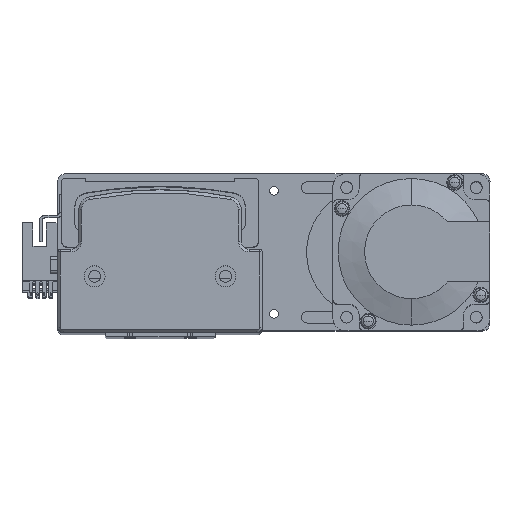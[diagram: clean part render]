
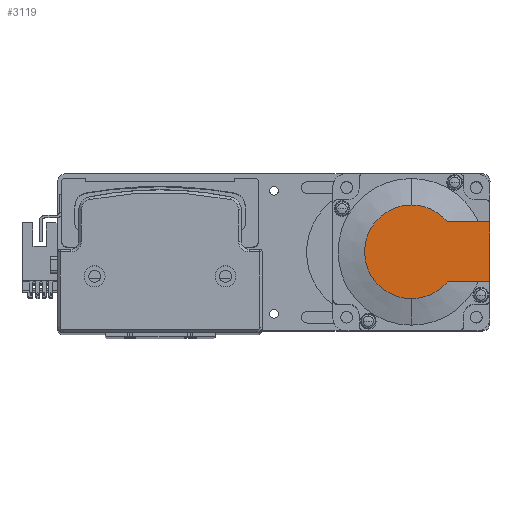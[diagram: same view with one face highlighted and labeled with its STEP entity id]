
A CAD part, top view. The second image highlights one B-rep face of the part: STEP entity #3119.
In plain terms, the highlighted planar face has unit normal (0, 0, 1) as drawn and (-1, 0, 0) by its records, which use the part's own axes.
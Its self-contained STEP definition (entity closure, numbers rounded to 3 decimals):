
#2785 = CARTESIAN_POINT ( 'NONE',  ( -118.5, -8.941, -11.45 ) ) ;
#3119 = ADVANCED_FACE ( 'NONE', ( #36825 ), #14721, .T. ) ;
#3309 = CIRCLE ( 'NONE', #39670, 17.881 ) ;
#4145 = DIRECTION ( 'NONE',  ( -1., 0., 0. ) ) ;
#5032 = EDGE_CURVE ( 'NONE', #11954, #33643, #34872, .T. ) ;
#5111 = EDGE_CURVE ( 'NONE', #33643, #24076, #5687, .T. ) ;
#5128 = VECTOR ( 'NONE', #20063, 1000. ) ;
#5179 = EDGE_CURVE ( 'NONE', #9548, #19487, #3309, .T. ) ;
#5242 = EDGE_CURVE ( 'NONE', #11954, #9548, #22089, .T. ) ;
#5687 = LINE ( 'NONE', #35577, #44061 ) ;
#6835 = VERTEX_POINT ( 'NONE', #16547 ) ;
#7410 = EDGE_CURVE ( 'NONE', #19487, #6835, #17312, .T. ) ;
#8348 = CARTESIAN_POINT ( 'NONE',  ( -118.5, 13.735, -11.45 ) ) ;
#8647 = EDGE_CURVE ( 'NONE', #6835, #24076, #48230, .T. ) ;
#9548 = VERTEX_POINT ( 'NONE', #8348 ) ;
#9695 = CARTESIAN_POINT ( 'NONE',  ( -118.5, 0., 0. ) ) ;
#11070 = DIRECTION ( 'NONE',  ( -1., 0., 0. ) ) ;
#11954 = VERTEX_POINT ( 'NONE', #34402 ) ;
#12112 = ORIENTED_EDGE ( 'NONE', *, *, #5111, .F. ) ;
#12362 = EDGE_LOOP ( 'NONE', ( #34771, #23698, #30033, #33616, #12112, #39842 ) ) ;
#13421 = DIRECTION ( 'NONE',  ( 0., -1., 0. ) ) ;
#13539 = DIRECTION ( 'NONE',  ( 0., 0., -1. ) ) ;
#14721 = PLANE ( 'NONE',  #46747 ) ;
#16547 = CARTESIAN_POINT ( 'NONE',  ( -118.5, 0., 17.881 ) ) ;
#17312 = CIRCLE ( 'NONE', #31161, 17.881 ) ;
#17626 = DIRECTION ( 'NONE',  ( -1., 0., 0. ) ) ;
#19487 = VERTEX_POINT ( 'NONE', #39371 ) ;
#20063 = DIRECTION ( 'NONE',  ( 0., 0., 1. ) ) ;
#22089 = LINE ( 'NONE', #2785, #30791 ) ;
#23698 = ORIENTED_EDGE ( 'NONE', *, *, #5179, .T. ) ;
#24076 = VERTEX_POINT ( 'NONE', #25550 ) ;
#25444 = AXIS2_PLACEMENT_3D ( 'NONE', #9695, #35697, #13539 ) ;
#25550 = CARTESIAN_POINT ( 'NONE',  ( -118.5, 13.735, 11.45 ) ) ;
#26525 = CARTESIAN_POINT ( 'NONE',  ( -118.5, 0., 0. ) ) ;
#30033 = ORIENTED_EDGE ( 'NONE', *, *, #7410, .T. ) ;
#30284 = DIRECTION ( 'NONE',  ( 0., 0., -1. ) ) ;
#30791 = VECTOR ( 'NONE', #47163, 1000. ) ;
#31161 = AXIS2_PLACEMENT_3D ( 'NONE', #26525, #4145, #30284 ) ;
#32949 = CARTESIAN_POINT ( 'NONE',  ( -118.5, 30., 11.45 ) ) ;
#33329 = CARTESIAN_POINT ( 'NONE',  ( -118.5, -8.941, 0. ) ) ;
#33616 = ORIENTED_EDGE ( 'NONE', *, *, #8647, .T. ) ;
#33643 = VERTEX_POINT ( 'NONE', #32949 ) ;
#34402 = CARTESIAN_POINT ( 'NONE',  ( -118.5, 30., -11.45 ) ) ;
#34771 = ORIENTED_EDGE ( 'NONE', *, *, #5242, .T. ) ;
#34872 = LINE ( 'NONE', #38600, #5128 ) ;
#35577 = CARTESIAN_POINT ( 'NONE',  ( -118.5, 0., 11.45 ) ) ;
#35697 = DIRECTION ( 'NONE',  ( -1., 0., 0. ) ) ;
#36825 = FACE_OUTER_BOUND ( 'NONE', #12362, .T. ) ;
#36984 = DIRECTION ( 'NONE',  ( 0., 0., 1. ) ) ;
#38600 = CARTESIAN_POINT ( 'NONE',  ( -118.5, 30., 25. ) ) ;
#39371 = CARTESIAN_POINT ( 'NONE',  ( -118.5, 0., -17.881 ) ) ;
#39670 = AXIS2_PLACEMENT_3D ( 'NONE', #39727, #17626, #43476 ) ;
#39727 = CARTESIAN_POINT ( 'NONE',  ( -118.5, 0., 0. ) ) ;
#39842 = ORIENTED_EDGE ( 'NONE', *, *, #5032, .F. ) ;
#43476 = DIRECTION ( 'NONE',  ( 0., 0., -1. ) ) ;
#44061 = VECTOR ( 'NONE', #13421, 1000. ) ;
#46747 = AXIS2_PLACEMENT_3D ( 'NONE', #33329, #11070, #36984 ) ;
#47163 = DIRECTION ( 'NONE',  ( 0., -1., 0. ) ) ;
#48230 = CIRCLE ( 'NONE', #25444, 17.881 ) ;
